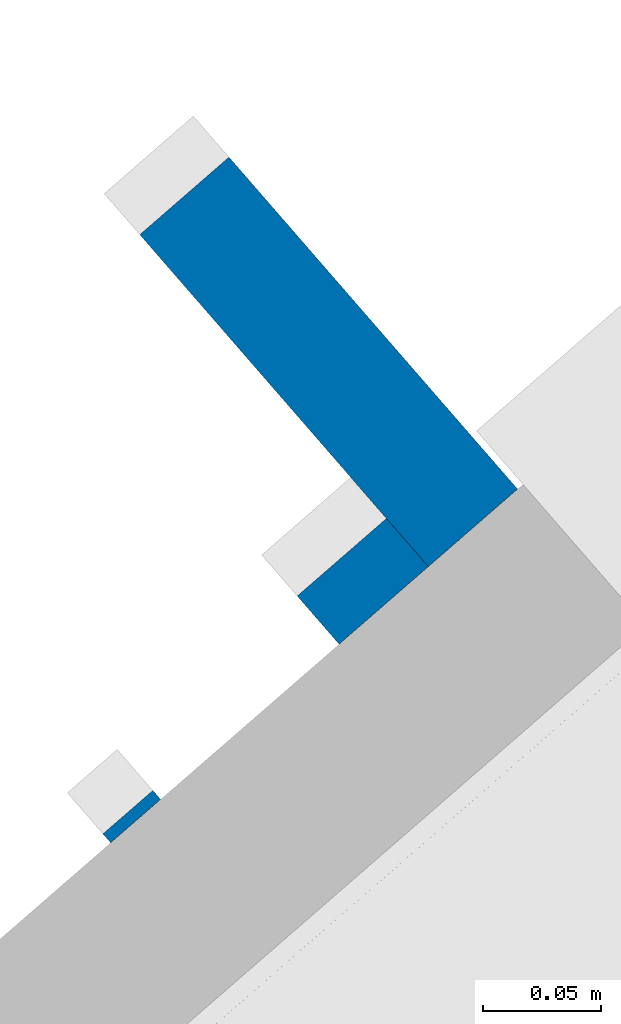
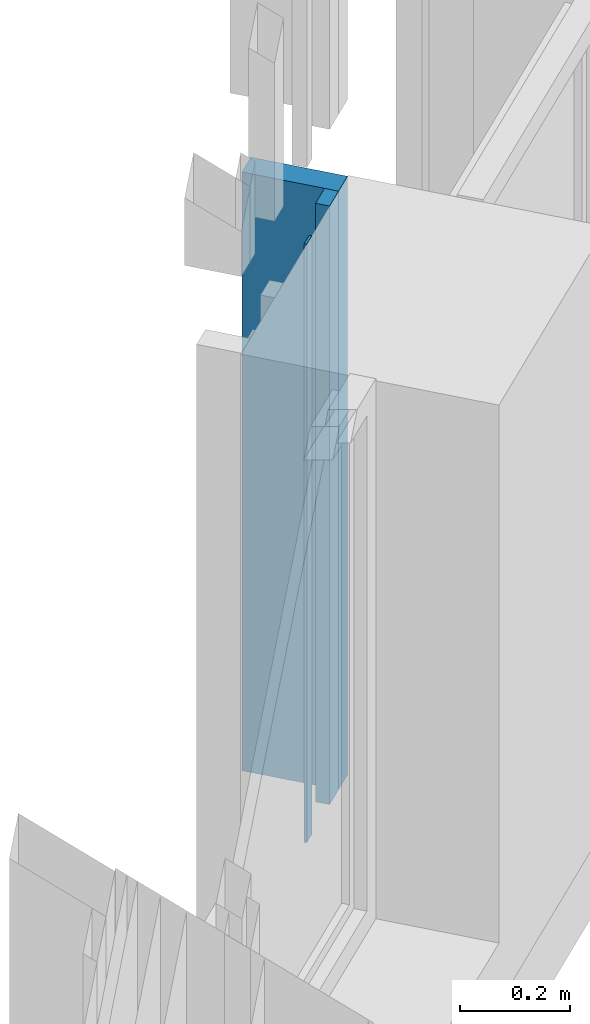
# One storey, part 236 of 390: 3 walls.
"""IFC2X3 building model written with IfcOpenShell, lengths in millimetres."""

from ifc_helpers import new_model, entity, si_unit, converted_unit, derived_unit, money_unit, direction, frame, origin_with_axes, place, context, subcontext, project, spatial, faceted_brep, material, type_object, element, save


model = new_model("IFC2X3")

# Units and contexts
model_context = context("Model", 3, precision=1e-05, world=origin_with_axes(), true_north=direction((0.0, 1.0)))
body_context = subcontext(model_context, "Body", "Model", "MODEL_VIEW")
ifc_project = project(units=[si_unit("LENGTHUNIT", "METRE", prefix="MILLI"), si_unit("AREAUNIT", "SQUARE_METRE"), si_unit("VOLUMEUNIT", "CUBIC_METRE"), converted_unit("PLANEANGLEUNIT", "DEGREE", entity("IfcPlaneAngleMeasure", 0.0174532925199), si_unit("PLANEANGLEUNIT", "RADIAN"), dimensions=[0, 0, 0, 0, 0, 0, 0]), si_unit("SOLIDANGLEUNIT", "STERADIAN"), money_unit("EUR"), converted_unit("TIMEUNIT", "Year", entity("IfcTimeMeasure", 31556926.0), si_unit("TIMEUNIT", "SECOND"), dimensions=[0, 0, 1, 0, 0, 0, 0]), si_unit("MASSUNIT", "GRAM", prefix="KILO"), si_unit("THERMODYNAMICTEMPERATUREUNIT", "DEGREE_CELSIUS"), si_unit("LUMINOUSINTENSITYUNIT", "LUMEN"), si_unit("ENERGYUNIT", "JOULE", prefix="MEGA"), derived_unit("THERMALCONDUCTANCEUNIT", [(si_unit("POWERUNIT", "WATT"), 1), (si_unit("LENGTHUNIT", "METRE"), -1), (si_unit("THERMODYNAMICTEMPERATUREUNIT", "KELVIN"), -1)]), derived_unit("SPECIFICHEATCAPACITYUNIT", [(si_unit("ENERGYUNIT", "JOULE"), 1), (si_unit("MASSUNIT", "GRAM", prefix="KILO"), -1), (si_unit("THERMODYNAMICTEMPERATUREUNIT", "KELVIN"), -1)]), derived_unit("MASSDENSITYUNIT", [(si_unit("MASSUNIT", "GRAM", prefix="KILO"), 1), (si_unit("VOLUMEUNIT", "CUBIC_METRE"), -1)])], contexts=[model_context])

# Site, building, storey
site_placement = place(None, origin_with_axes())
site = spatial("IfcSite", under=ifc_project, at=site_placement, Name="Site", CompositionType="ELEMENT")
building_placement = place(site_placement, origin_with_axes())
building = spatial("IfcBuilding", under=site, at=building_placement, Name="Building", CompositionType="ELEMENT")
storey_placement = place(building_placement, origin_with_axes())
storey = spatial("IfcBuildingStorey", under=building, at=storey_placement, Name="1 korrus", CompositionType="ELEMENT", Elevation=0.0)

# Walls
ifc_material = material(Name="Site specified")
wall_type = type_object("IfcWallType", Name="Puitfassaadi ribistik", PredefinedType="NOTDEFINED")
wall_1_placement = place(storey_placement, frame((141290.443625, 92813.2741693, 0.0), z_axis=(0.0, 0.0, 1.0), x_axis=(0.754709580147, 0.656059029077, 0.0)))
element("IfcWall", 1, at=wall_1_placement, inside=storey, type_object=wall_type, material=ifc_material, Name="Site specified", context=body_context, shape_type="Brep", body=[
    faceted_brep([(-14.0, 14.0, 1330.0), (-14.0, 8.98749019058, 1330.0), (14.0000000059, 8.98742387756, 1330.0), (14.0, 14.0, 1330.0), (-14.0, 14.0, 0.0), (-14.0000000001, 8.98496863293, 0.0), (14.0, 8.98490523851, 0.0), (14.0, 14.0, 0.0)], [[[0, 1, 2, 3]], [[4, 5, 1, 0]], [[5, 6, 2, 1]], [[3, 2, 6, 7]], [[0, 3, 7, 4]], [[7, 6, 5, 4]]]),
])
wall_2_placement = place(storey_placement, frame((141388.131607, 92912.7681797, 0.0), z_axis=(0.0, 0.0, 1.0), x_axis=(0.754709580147, 0.656059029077, 0.0)))
element("IfcWall", 2, at=wall_2_placement, inside=storey, type_object=wall_type, material=ifc_material, Name="Site specified", context=body_context, shape_type="Brep", body=[
    faceted_brep([(-25.0, 25.0, 1330.0), (-25.0, -2.0128129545, 1330.0), (25.0000000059, -2.0129313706, 1330.0), (25.0, 25.0, 1330.0), (-25.0, 25.0, 0.0), (-25.0, -2.01532117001, 0.0), (25.0, -2.01543437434, 0.0), (25.0, 25.0, 0.0)], [[[0, 1, 2, 3]], [[4, 5, 1, 0]], [[5, 6, 2, 1]], [[3, 2, 6, 7]], [[0, 3, 7, 4]], [[7, 6, 5, 4]]]),
])
wall_3_placement = place(storey_placement, frame((141373.710393, 93005.5705428, 0.0), z_axis=(0.0, 0.0, 1.0), x_axis=(0.754709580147, 0.656059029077, 0.0)))
element("IfcWall", 3, at=wall_3_placement, inside=storey, type_object=wall_type, material=ifc_material, Name="Site specified", context=body_context, shape_type="Brep", body=[
    faceted_brep([(-25.0, 104.5, 1330.0), (-25.0, -81.5129313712, 1330.0), (25.0000000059, -81.5130497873, 1330.0), (25.0, 104.5, 1330.0), (-25.0, 104.5, 0.0), (-25.0, -81.515434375, 0.0), (25.0, -81.5155475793, 0.0), (25.0, 104.5, 0.0)], [[[0, 1, 2, 3]], [[4, 5, 1, 0]], [[5, 6, 2, 1]], [[3, 2, 6, 7]], [[0, 3, 7, 4]], [[7, 6, 5, 4]]]),
])

save(model, "model.ifc")
